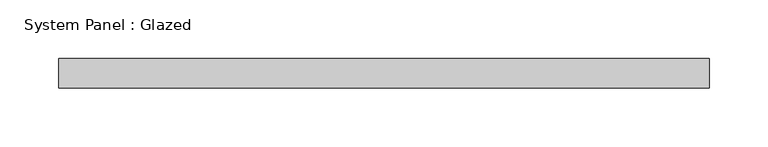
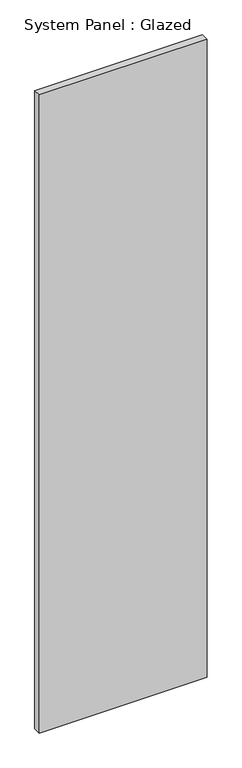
"""IFC4 building model written with IfcOpenShell, lengths in millimetres: plate geometry, System Panel : Glazed."""

from ifc_helpers import new_model, si_unit, origin, origin_with_axes, place, context, project, spatial, polyline, outline, extrude, source, transform, mapped, element, save


def system_panel_glazed_a0e57360(model_context):
    return source(origin(), model_context, "Body", "SweptSolid", [
        extrude(outline(polyline([(276.9999999, -49.5), (-276.9999999, -49.5), (-276.9999999, -24.5), (276.9999999, -24.5), (276.9999999, -49.5)])), origin_with_axes(), (0.0, 0.0, 1.0), 2225.0),
    ])


if __name__ == "__main__":
    model = new_model("IFC4")
    model_context = context("Model", 3, world=origin())
    ifc_project = project(units=[si_unit("LENGTHUNIT", "METRE", prefix="MILLI")], contexts=[model_context])
    site = spatial("IfcSite", under=ifc_project)
    building = spatial("IfcBuilding", under=site)
    placement = place(None, origin())
    system_panel_glazed_shape = system_panel_glazed_a0e57360(model_context)
    element("IfcPlate", 1, ObjectType="System Panel : Glazed", at=placement, inside=building, context=model_context, shape_type="MappedRepresentation", body=[
        mapped(system_panel_glazed_shape, transform((0.0, 0.0, 0.0), x_axis=(1.0, 0.0, 0.0), y_axis=(0.0, 1.0, 0.0), z_axis=(0.0, 0.0, 1.0))),
    ])
    save(model, "model.ifc")
